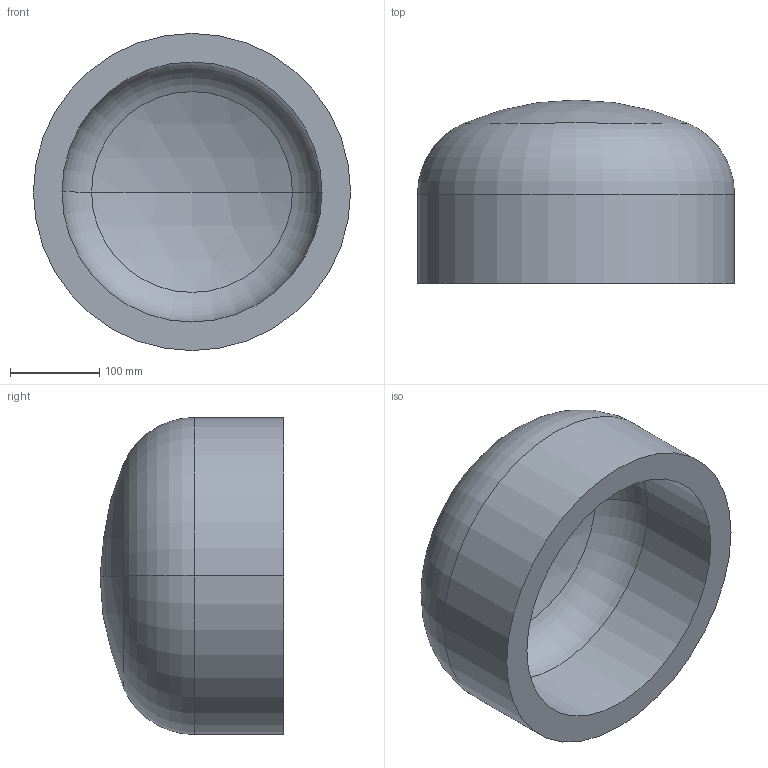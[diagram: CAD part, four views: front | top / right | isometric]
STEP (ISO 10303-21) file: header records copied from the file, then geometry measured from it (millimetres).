
FILE_DESCRIPTION (( 'STEP AP203' ), '1' );
FILE_NAME ('DIN 28013 Korbbogenform_-_Boden DIN 28013 - 355,6 x 100 - I - s=32.step', '2016-07-01T07:47:39', ( '' ), ( '' ), 'SwSTEP 2.0', 'SolidWorks 2013', '' );
FILE_SCHEMA (( 'CONFIG_CONTROL_DESIGN' ));
Length unit declared in the file: millimetre
Products named in the file (1): DIN 28013 Korbbogenform_-_Boden DIN 28013 - 355,6 x 100 - I - s=32
Bounding box: 355.6 x 205.77 x 355.6 mm (x, y, z)
Volume: 7191674.1 mm3; surface area: 484156.1 mm2
Topology: 1 solids, 1 shells, 13 faces, 24 edges, 14 vertices
Faces by surface type: torus 4, cylinder 4, sphere 4, plane 1
Entity records: 407 total; most frequent: DIRECTION 72, CARTESIAN_POINT 52, ORIENTED_EDGE 48, AXIS2_PLACEMENT_3D 34, EDGE_CURVE 24, CIRCLE 20, EDGE_LOOP 14, VERTEX_POINT 14
